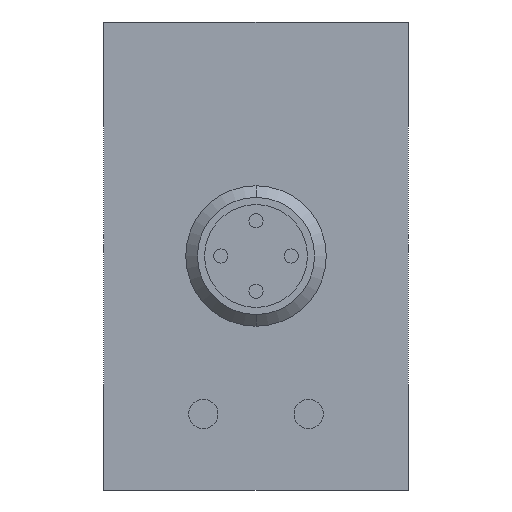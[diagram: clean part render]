
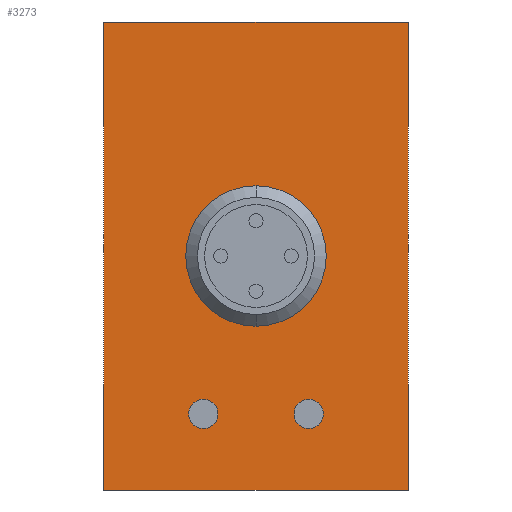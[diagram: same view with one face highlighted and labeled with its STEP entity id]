
A CAD part, left-side view. The second image highlights one B-rep face of the part: STEP entity #3273.
In plain terms, the highlighted planar face has unit normal (-1, 0, 0).
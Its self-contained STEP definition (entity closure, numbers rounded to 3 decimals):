
#3043=CARTESIAN_POINT('POINT10093',(-12.5,26.,5.));
#3044=VERTEX_POINT('VERTEX10093',#3043);
#3051=CARTESIAN_POINT('POINT10094',(-12.5,0.,5.));
#3052=VERTEX_POINT('VERTEX10094',#3051);
#3053=CARTESIAN_POINT('POS16687',(-12.5,13.,5.));
#3054=DIRECTION('DIR25672',(0.,-1.,0.));
#3055=VECTOR('VEC7702',#3054,1.);
#3056=LINE('STRAIGHT7702',#3053,#3055);
#3057=EDGE_CURVE('EDGE15706',#3044,#3052,#3056,.T.);
#3073=CARTESIAN_POINT('POINT10095',(-12.5,0.,-35.));
#3074=VERTEX_POINT('VERTEX10095',#3073);
#3075=CARTESIAN_POINT('POS16690',(-12.5,0.,-15.));
#3076=DIRECTION('DIR25676',(0.,0.,-1.));
#3077=VECTOR('VEC7704',#3076,1.);
#3078=LINE('STRAIGHT7704',#3075,#3077);
#3079=EDGE_CURVE('EDGE15708',#3052,#3074,#3078,.T.);
#3099=CARTESIAN_POINT('POINT10096',(-12.5,26.,-35.));
#3100=VERTEX_POINT('VERTEX10096',#3099);
#3101=CARTESIAN_POINT('POS16693',(-12.5,13.,-35.));
#3102=DIRECTION('DIR25680',(0.,1.,0.));
#3103=VECTOR('VEC7706',#3102,1.);
#3104=LINE('STRAIGHT7706',#3101,#3103);
#3105=EDGE_CURVE('EDGE15710',#3074,#3100,#3104,.T.);
#3123=CARTESIAN_POINT('POS16696',(-12.5,26.,-15.));
#3124=DIRECTION('DIR25684',(0.,0.,-1.));
#3125=VECTOR('VEC7708',#3124,1.);
#3126=LINE('STRAIGHT7708',#3123,#3125);
#3127=EDGE_CURVE('EDGE15712',#3044,#3100,#3126,.T.);
#3138=CARTESIAN_POINT('POINT10097',(-12.5,8.5,-29.75));
#3139=VERTEX_POINT('VERTEX10097',#3138);
#3146=CARTESIAN_POINT('POINT10098',(-12.5,8.5,-27.25));
#3147=VERTEX_POINT('VERTEX10098',#3146);
#3148=CARTESIAN_POINT('POS16699',(-12.5,8.5,-28.5));
#3149=DIRECTION('DIR25688',(1.,0.,0.));
#3150=DIRECTION('DIR25689',(0.,0.,-1.));
#3151=AXIS2_PLACEMENT_3D('AXIS8990',#3148,#3149,#3150);
#3152=CIRCLE('ELLIPSE4278',#3151,1.25);
#3153=EDGE_CURVE('EDGE15714',#3147,#3139,#3152,.T.);
#3173=EDGE_CURVE('EDGE15716',#3139,#3147,#3152,.T.);
#3178=CARTESIAN_POINT('POINT10099',(-12.5,17.5,-29.75));
#3179=VERTEX_POINT('VERTEX10099',#3178);
#3186=CARTESIAN_POINT('POINT10100',(-12.5,17.5,-27.25));
#3187=VERTEX_POINT('VERTEX10100',#3186);
#3188=CARTESIAN_POINT('POS16703',(-12.5,17.5,-28.5));
#3189=DIRECTION('DIR25694',(1.,0.,0.));
#3190=DIRECTION('DIR25695',(0.,0.,-1.));
#3191=AXIS2_PLACEMENT_3D('AXIS8992',#3188,#3189,#3190);
#3192=CIRCLE('ELLIPSE4279',#3191,1.25);
#3193=EDGE_CURVE('EDGE15718',#3187,#3179,#3192,.T.);
#3213=EDGE_CURVE('EDGE15720',#3179,#3187,#3192,.T.);
#3239=ORIENTED_EDGE('COEDGE31435',*,*,#3213,.T.);
#3240=ORIENTED_EDGE('COEDGE31436',*,*,#3193,.T.);
#3241=EDGE_LOOP('NONE',(#3239,#3240));
#3242=FACE_BOUND('LOOP1',#3241,.T.);
#3243=ORIENTED_EDGE('COEDGE31437',*,*,#3173,.T.);
#3244=ORIENTED_EDGE('COEDGE31438',*,*,#3153,.T.);
#3245=EDGE_LOOP('NONE',(#3243,#3244));
#3246=FACE_BOUND('LOOP1',#3245,.T.);
#3247=CARTESIAN_POINT('POINT10103',(-12.5,13.,-9.));
#3248=VERTEX_POINT('VERTEX10103',#3247);
#3249=CARTESIAN_POINT('POINT10104',(-12.5,13.,-21.));
#3250=VERTEX_POINT('VERTEX10104',#3249);
#3251=CARTESIAN_POINT('POS16708',(-12.5,13.,-15.));
#3252=DIRECTION('DIR25703',(1.,0.,0.));
#3253=DIRECTION('DIR25704',(0.,0.,-1.));
#3254=AXIS2_PLACEMENT_3D('AXIS8996',#3251,#3252,#3253);
#3255=CIRCLE('ELLIPSE4281',#3254,6.);
#3256=EDGE_CURVE('EDGE15723',#3248,#3250,#3255,.T.);
#3257=ORIENTED_EDGE('COEDGE31439',*,*,#3256,.T.);
#3258=EDGE_CURVE('EDGE15724',#3250,#3248,#3255,.T.);
#3259=ORIENTED_EDGE('COEDGE31440',*,*,#3258,.T.);
#3260=EDGE_LOOP('NONE',(#3257,#3259));
#3261=FACE_BOUND('LOOP1',#3260,.T.);
#3262=ORIENTED_EDGE('COEDGE31441',*,*,#3127,.T.);
#3263=ORIENTED_EDGE('COEDGE31442',*,*,#3105,.F.);
#3264=ORIENTED_EDGE('COEDGE31443',*,*,#3079,.F.);
#3265=ORIENTED_EDGE('COEDGE31444',*,*,#3057,.F.);
#3266=EDGE_LOOP('NONE',(#3262,#3263,#3264,#3265));
#3267=FACE_BOUND('LOOP1',#3266,.T.);
#3268=CARTESIAN_POINT('POS16709',(-12.5,13.,-15.));
#3269=DIRECTION('DIR25705',(1.,0.,0.));
#3270=DIRECTION('DIR25706',(0.,1.,0.));
#3271=AXIS2_PLACEMENT_3D('AXIS8997',#3268,#3269,#3270);
#3272=PLANE('PLANE2705',#3271);
#3273=ADVANCED_FACE('FACE6866',(#3242,#3246,#3261,#3267),#3272,.F.);
